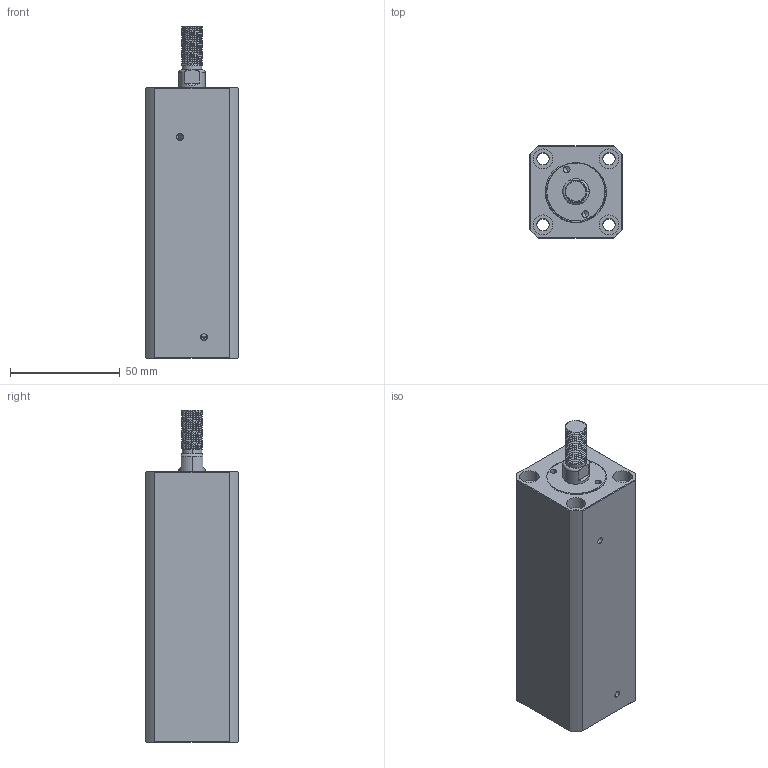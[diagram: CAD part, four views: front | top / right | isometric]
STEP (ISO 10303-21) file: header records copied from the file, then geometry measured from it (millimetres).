
FILE_DESCRIPTION (( 'STEP AP214' ), '1' );
FILE_NAME ('chtb-sdmb20x80w_asm.STEP', '2018-05-18T08:37:39', ( 'Windows' ), ( 'Microsoft' ), 'SwSTEP 2.0', 'SolidWorks 2015', '' );
FILE_SCHEMA (( 'AUTOMOTIVE_DESIGN' ));
Length unit declared in the file: millimetre
Products named in the file (4): QG_3; CHTB-SDMB20X80WHSG; CHTB-SDMB20X80NBT; chtb-sdmb20x80w_asm
Assembly tree (3 placements, depth 2):
  chtb-sdmb20x80w_asm
    CHTB-SDMB20X80NBT
    CHTB-SDMB20X80WHSG
    QG_3
Bounding box: 42 x 42 x 151 mm (x, y, z)
Volume: 183509.3 mm3; surface area: 51940.2 mm2
Topology: 3 solids, 3 shells, 243 faces, 660 edges, 439 vertices
Faces by surface type: cylinder 143, plane 47, torus 25, bspline 23, cone 5
Entity records: 14768 total; most frequent: CARTESIAN_POINT 8984, ORIENTED_EDGE 1312, DIRECTION 1058, EDGE_CURVE 656, VERTEX_POINT 439, AXIS2_PLACEMENT_3D 434, EDGE_LOOP 281, ADVANCED_FACE 243
